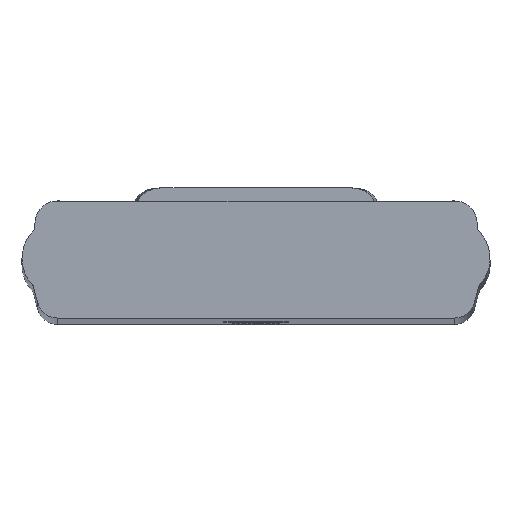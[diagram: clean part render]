
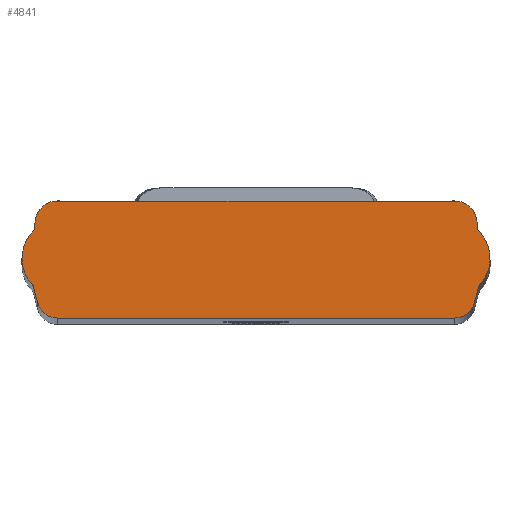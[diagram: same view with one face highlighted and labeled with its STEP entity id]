
A CAD part, top view. The second image highlights one B-rep face of the part: STEP entity #4841.
In plain terms, the highlighted planar face has unit normal (0, 0, 1).
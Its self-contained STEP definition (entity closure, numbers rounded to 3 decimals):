
#146 = DIRECTION ( 'NONE',  ( 0., 0., 1. ) ) ;
#153 = DIRECTION ( 'NONE',  ( 1., 0., 0. ) ) ;
#158 = CARTESIAN_POINT ( 'NONE',  ( -19.01, 0.53, 343.567 ) ) ;
#247 = EDGE_CURVE ( 'NONE', #1495, #1430, #4263, .T. ) ;
#298 = EDGE_CURVE ( 'NONE', #1510, #1487, #4332, .T. ) ;
#305 = EDGE_CURVE ( 'NONE', #1479, #1453, #4354, .T. ) ;
#309 = EDGE_CURVE ( 'NONE', #4203, #1479, #4357, .T. ) ;
#331 = EDGE_CURVE ( 'NONE', #1412, #4203, #4392, .T. ) ;
#334 = EDGE_CURVE ( 'NONE', #1486, #1510, #4396, .T. ) ;
#335 = EDGE_CURVE ( 'NONE', #1487, #1623, #4397, .T. ) ;
#336 = EDGE_CURVE ( 'NONE', #1623, #4199, #4398, .T. ) ;
#337 = EDGE_CURVE ( 'NONE', #4199, #4181, #4399, .T. ) ;
#338 = EDGE_CURVE ( 'NONE', #4181, #1495, #4401, .T. ) ;
#339 = EDGE_CURVE ( 'NONE', #1430, #1627, #4402, .T. ) ;
#340 = EDGE_CURVE ( 'NONE', #1627, #1412, #4403, .T. ) ;
#341 = EDGE_CURVE ( 'NONE', #1453, #1687, #4404, .T. ) ;
#342 = EDGE_CURVE ( 'NONE', #1687, #4188, #4406, .T. ) ;
#343 = EDGE_CURVE ( 'NONE', #4188, #1452, #4408, .T. ) ;
#344 = EDGE_CURVE ( 'NONE', #1452, #4186, #4409, .T. ) ;
#345 = EDGE_CURVE ( 'NONE', #4186, #1486, #4410, .T. ) ;
#704 = AXIS2_PLACEMENT_3D ( 'NONE', #158, #146, #153 ) ;
#722 = AXIS2_PLACEMENT_3D ( 'NONE', #1993, #1984, #2045 ) ;
#737 = AXIS2_PLACEMENT_3D ( 'NONE', #2141, #2156, #2140 ) ;
#739 = AXIS2_PLACEMENT_3D ( 'NONE', #2124, #2121, #2127 ) ;
#740 = AXIS2_PLACEMENT_3D ( 'NONE', #2130, #2129, #2133 ) ;
#741 = AXIS2_PLACEMENT_3D ( 'NONE', #2136, #2135, #2134 ) ;
#742 = AXIS2_PLACEMENT_3D ( 'NONE', #2042, #2044, #2057 ) ;
#743 = AXIS2_PLACEMENT_3D ( 'NONE', #2059, #2064, #2138 ) ;
#744 = AXIS2_PLACEMENT_3D ( 'NONE', #2074, #2019, #2062 ) ;
#745 = AXIS2_PLACEMENT_3D ( 'NONE', #1921, #1956, #1969 ) ;
#746 = AXIS2_PLACEMENT_3D ( 'NONE', #1971, #1980, #1979 ) ;
#961 = CARTESIAN_POINT ( 'NONE',  ( 21.664, 3.222, 343.567 ) ) ;
#1004 = CARTESIAN_POINT ( 'NONE',  ( 21.692, -2.213, 343.567 ) ) ;
#1039 = CARTESIAN_POINT ( 'NONE',  ( -21.692, -2.213, 343.567 ) ) ;
#1040 = CARTESIAN_POINT ( 'NONE',  ( -21.53, 3.942, 343.567 ) ) ;
#1078 = CARTESIAN_POINT ( 'NONE',  ( -19.5, 6.117, 343.567 ) ) ;
#1079 = CARTESIAN_POINT ( 'NONE',  ( 21.53, 3.942, 343.567 ) ) ;
#1084 = CARTESIAN_POINT ( 'NONE',  ( 19.336, -5.278, 343.567 ) ) ;
#1122 = CARTESIAN_POINT ( 'NONE',  ( -21.268, -3.795, 343.567 ) ) ;
#1125 = CARTESIAN_POINT ( 'NONE',  ( 19.5, 6.117, 343.567 ) ) ;
#1235 = CARTESIAN_POINT ( 'NONE',  ( -22.79, 0.53, 343.567 ) ) ;
#1285 = CARTESIAN_POINT ( 'NONE',  ( -21.795, -2.026, 343.567 ) ) ;
#1379 = CARTESIAN_POINT ( 'NONE',  ( 21.268, -3.795, 343.567 ) ) ;
#1412 = VERTEX_POINT ( 'NONE', #1122 ) ;
#1430 = VERTEX_POINT ( 'NONE', #1285 ) ;
#1452 = VERTEX_POINT ( 'NONE', #961 ) ;
#1453 = VERTEX_POINT ( 'NONE', #1379 ) ;
#1479 = VERTEX_POINT ( 'NONE', #1084 ) ;
#1486 = VERTEX_POINT ( 'NONE', #1079 ) ;
#1487 = VERTEX_POINT ( 'NONE', #1078 ) ;
#1495 = VERTEX_POINT ( 'NONE', #1235 ) ;
#1510 = VERTEX_POINT ( 'NONE', #1125 ) ;
#1577 = EDGE_LOOP ( 'NONE', ( #2845, #3048, #3040, #2825, #2979, #3041, #3010, #2989, #2890, #2851, #3003, #3032, #2856, #2896, #2862, #2888, #3075 ) ) ;
#1623 = VERTEX_POINT ( 'NONE', #1040 ) ;
#1627 = VERTEX_POINT ( 'NONE', #1039 ) ;
#1687 = VERTEX_POINT ( 'NONE', #1004 ) ;
#1806 = CARTESIAN_POINT ( 'NONE',  ( 0., 6.117, 343.567 ) ) ;
#1895 = DIRECTION ( 'NONE',  ( 0.259, 0.966, 0. ) ) ;
#1921 = CARTESIAN_POINT ( 'NONE',  ( 19.01, 0.53, 343.567 ) ) ;
#1925 = DIRECTION ( 'NONE',  ( 0., 1., 0. ) ) ;
#1944 = CARTESIAN_POINT ( 'NONE',  ( 21.268, -3.795, 343.567 ) ) ;
#1945 = CARTESIAN_POINT ( 'NONE',  ( 0., -5.278, 343.567 ) ) ;
#1956 = DIRECTION ( 'NONE',  ( 0., 0., 1. ) ) ;
#1969 = DIRECTION ( 'NONE',  ( 1., 0., 0. ) ) ;
#1971 = CARTESIAN_POINT ( 'NONE',  ( 21.98, 3.542, 343.567 ) ) ;
#1979 = DIRECTION ( 'NONE',  ( 1., 0., 0. ) ) ;
#1980 = DIRECTION ( 'NONE',  ( 0., 0., -1. ) ) ;
#1984 = DIRECTION ( 'NONE',  ( 0., 0., 1. ) ) ;
#1993 = CARTESIAN_POINT ( 'NONE',  ( 19.336, -3.278, 343.567 ) ) ;
#1999 = DIRECTION ( 'NONE',  ( -1., 0., 0. ) ) ;
#2019 = DIRECTION ( 'NONE',  ( 0., 0., -1. ) ) ;
#2033 = CARTESIAN_POINT ( 'NONE',  ( -21.268, -3.795, 343.567 ) ) ;
#2034 = DIRECTION ( 'NONE',  ( 0.259, -0.966, 0. ) ) ;
#2042 = CARTESIAN_POINT ( 'NONE',  ( -19.01, 0.53, 343.567 ) ) ;
#2044 = DIRECTION ( 'NONE',  ( 0., 0., 1. ) ) ;
#2045 = DIRECTION ( 'NONE',  ( 1., 0., 0. ) ) ;
#2057 = DIRECTION ( 'NONE',  ( 1., 0., 0. ) ) ;
#2059 = CARTESIAN_POINT ( 'NONE',  ( -22.127, -2.33, 343.567 ) ) ;
#2062 = DIRECTION ( 'NONE',  ( 1., 0., 0. ) ) ;
#2064 = DIRECTION ( 'NONE',  ( 0., 0., -1. ) ) ;
#2074 = CARTESIAN_POINT ( 'NONE',  ( 22.127, -2.33, 343.567 ) ) ;
#2115 = CARTESIAN_POINT ( 'NONE',  ( -21.53, 3.542, 343.567 ) ) ;
#2121 = DIRECTION ( 'NONE',  ( 0., 0., 1. ) ) ;
#2124 = CARTESIAN_POINT ( 'NONE',  ( 19.35, 3.942, 343.567 ) ) ;
#2126 = DIRECTION ( 'NONE',  ( 0., -1., 0. ) ) ;
#2127 = DIRECTION ( 'NONE',  ( 1., 0., 0. ) ) ;
#2129 = DIRECTION ( 'NONE',  ( 0., 0., 1. ) ) ;
#2130 = CARTESIAN_POINT ( 'NONE',  ( -19.35, 3.942, 343.567 ) ) ;
#2133 = DIRECTION ( 'NONE',  ( 1., 0., 0. ) ) ;
#2134 = DIRECTION ( 'NONE',  ( 1., 0., 0. ) ) ;
#2135 = DIRECTION ( 'NONE',  ( 0., 0., -1. ) ) ;
#2136 = CARTESIAN_POINT ( 'NONE',  ( -21.98, 3.542, 343.567 ) ) ;
#2138 = DIRECTION ( 'NONE',  ( 1., 0., 0. ) ) ;
#2140 = DIRECTION ( 'NONE',  ( 1., 0., 0. ) ) ;
#2141 = CARTESIAN_POINT ( 'NONE',  ( -19.336, -3.278, 343.567 ) ) ;
#2156 = DIRECTION ( 'NONE',  ( 0., 0., 1. ) ) ;
#2212 = CARTESIAN_POINT ( 'NONE',  ( 21.53, 3.542, 343.567 ) ) ;
#2232 = DIRECTION ( 'NONE',  ( 1., 0., 0. ) ) ;
#2264 = CARTESIAN_POINT ( 'NONE',  ( 21.795, -2.026, 343.567 ) ) ;
#2297 = PLANE ( 'NONE',  #5462 ) ;
#2305 = DIRECTION ( 'NONE',  ( 0., 0., 1. ) ) ;
#2306 = CARTESIAN_POINT ( 'NONE',  ( -21.53, 3.542, 343.567 ) ) ;
#2331 = CARTESIAN_POINT ( 'NONE',  ( -19.336, -5.278, 343.567 ) ) ;
#2382 = CARTESIAN_POINT ( 'NONE',  ( 21.53, 3.542, 343.567 ) ) ;
#2407 = CARTESIAN_POINT ( 'NONE',  ( -21.664, 3.222, 343.567 ) ) ;
#2460 = DIRECTION ( 'NONE',  ( 1., 0., 0. ) ) ;
#2462 = CARTESIAN_POINT ( 'NONE',  ( 0., 0., 343.567 ) ) ;
#2825 = ORIENTED_EDGE ( 'NONE', *, *, #336, .T. ) ;
#2845 = ORIENTED_EDGE ( 'NONE', *, *, #334, .T. ) ;
#2851 = ORIENTED_EDGE ( 'NONE', *, *, #331, .T. ) ;
#2856 = ORIENTED_EDGE ( 'NONE', *, *, #341, .T. ) ;
#2862 = ORIENTED_EDGE ( 'NONE', *, *, #343, .T. ) ;
#2888 = ORIENTED_EDGE ( 'NONE', *, *, #344, .T. ) ;
#2890 = ORIENTED_EDGE ( 'NONE', *, *, #340, .T. ) ;
#2896 = ORIENTED_EDGE ( 'NONE', *, *, #342, .T. ) ;
#2979 = ORIENTED_EDGE ( 'NONE', *, *, #337, .T. ) ;
#2989 = ORIENTED_EDGE ( 'NONE', *, *, #339, .T. ) ;
#3003 = ORIENTED_EDGE ( 'NONE', *, *, #309, .T. ) ;
#3010 = ORIENTED_EDGE ( 'NONE', *, *, #247, .T. ) ;
#3032 = ORIENTED_EDGE ( 'NONE', *, *, #305, .T. ) ;
#3040 = ORIENTED_EDGE ( 'NONE', *, *, #335, .T. ) ;
#3041 = ORIENTED_EDGE ( 'NONE', *, *, #338, .T. ) ;
#3048 = ORIENTED_EDGE ( 'NONE', *, *, #298, .T. ) ;
#3075 = ORIENTED_EDGE ( 'NONE', *, *, #345, .T. ) ;
#4181 = VERTEX_POINT ( 'NONE', #2407 ) ;
#4186 = VERTEX_POINT ( 'NONE', #2382 ) ;
#4188 = VERTEX_POINT ( 'NONE', #2264 ) ;
#4199 = VERTEX_POINT ( 'NONE', #2306 ) ;
#4203 = VERTEX_POINT ( 'NONE', #2331 ) ;
#4263 = CIRCLE ( 'NONE', #704, 3.78 ) ;
#4332 = LINE ( 'NONE', #1806, #4343 ) ;
#4343 = VECTOR ( 'NONE', #1999, 1000. ) ;
#4354 = CIRCLE ( 'NONE', #722, 2. ) ;
#4357 = LINE ( 'NONE', #1945, #4363 ) ;
#4363 = VECTOR ( 'NONE', #2232, 1000. ) ;
#4392 = CIRCLE ( 'NONE', #737, 2. ) ;
#4396 = CIRCLE ( 'NONE', #739, 2.18 ) ;
#4397 = CIRCLE ( 'NONE', #740, 2.18 ) ;
#4398 = LINE ( 'NONE', #2115, #4400 ) ;
#4399 = CIRCLE ( 'NONE', #741, 0.45 ) ;
#4400 = VECTOR ( 'NONE', #2126, 1000. ) ;
#4401 = CIRCLE ( 'NONE', #742, 3.78 ) ;
#4402 = CIRCLE ( 'NONE', #743, 0.45 ) ;
#4403 = LINE ( 'NONE', #2033, #4405 ) ;
#4404 = LINE ( 'NONE', #1944, #4407 ) ;
#4405 = VECTOR ( 'NONE', #2034, 1000. ) ;
#4406 = CIRCLE ( 'NONE', #744, 0.45 ) ;
#4407 = VECTOR ( 'NONE', #1895, 1000. ) ;
#4408 = CIRCLE ( 'NONE', #745, 3.78 ) ;
#4409 = CIRCLE ( 'NONE', #746, 0.45 ) ;
#4410 = LINE ( 'NONE', #2212, #4412 ) ;
#4412 = VECTOR ( 'NONE', #1925, 1000. ) ;
#4841 = ADVANCED_FACE ( 'NONE', ( #5601 ), #2297, .T. ) ;
#5462 = AXIS2_PLACEMENT_3D ( 'NONE', #2462, #2305, #2460 ) ;
#5601 = FACE_OUTER_BOUND ( 'NONE', #1577, .T. ) ;
